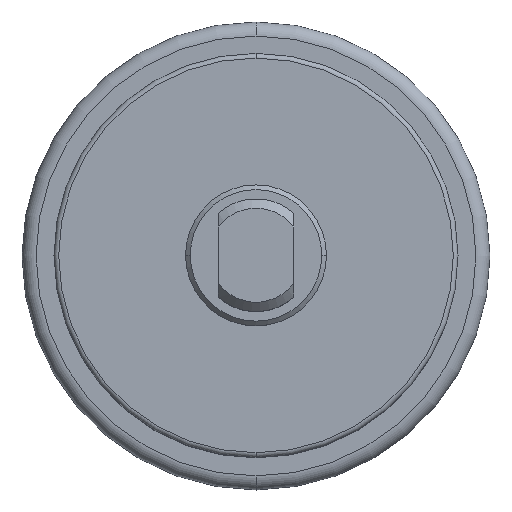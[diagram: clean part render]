
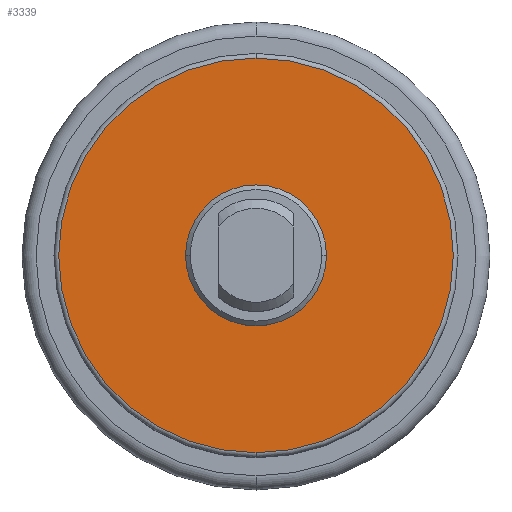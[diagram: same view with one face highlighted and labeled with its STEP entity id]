
A CAD part, top view. The second image highlights one B-rep face of the part: STEP entity #3339.
In plain terms, the highlighted planar face has unit normal (0, 0, 1).
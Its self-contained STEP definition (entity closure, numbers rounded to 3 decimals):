
#30 = EDGE_CURVE ( 'NONE', #1395, #2904, #2235, .T. ) ;
#104 = VERTEX_POINT ( 'NONE', #1288 ) ;
#114 = CARTESIAN_POINT ( 'NONE',  ( 0., 0., 25.9 ) ) ;
#177 = CARTESIAN_POINT ( 'NONE',  ( 7.5, 0., 25.9 ) ) ;
#237 = FACE_BOUND ( 'NONE', #1369, .T. ) ;
#254 = AXIS2_PLACEMENT_3D ( 'NONE', #3515, #3568, #1716 ) ;
#357 = CARTESIAN_POINT ( 'NONE',  ( 0., 0., 25.9 ) ) ;
#514 = CIRCLE ( 'NONE', #2628, 21. ) ;
#633 = AXIS2_PLACEMENT_3D ( 'NONE', #114, #3607, #3086 ) ;
#693 = CIRCLE ( 'NONE', #633, 7.5 ) ;
#849 = CARTESIAN_POINT ( 'NONE',  ( -7.5, 0., 25.9 ) ) ;
#921 = EDGE_CURVE ( 'NONE', #2904, #1395, #693, .T. ) ;
#1288 = CARTESIAN_POINT ( 'NONE',  ( 0., 21., 25.9 ) ) ;
#1308 = CARTESIAN_POINT ( 'NONE',  ( 0., 0., 25.9 ) ) ;
#1369 = EDGE_LOOP ( 'NONE', ( #2137, #2596 ) ) ;
#1395 = VERTEX_POINT ( 'NONE', #177 ) ;
#1437 = PLANE ( 'NONE',  #254 ) ;
#1708 = VERTEX_POINT ( 'NONE', #2705 ) ;
#1716 = DIRECTION ( 'NONE',  ( 0., -1., 0. ) ) ;
#1854 = AXIS2_PLACEMENT_3D ( 'NONE', #2573, #3697, #2242 ) ;
#1863 = EDGE_CURVE ( 'NONE', #1708, #104, #514, .T. ) ;
#1878 = DIRECTION ( 'NONE',  ( 0., 1., 0. ) ) ;
#2137 = ORIENTED_EDGE ( 'NONE', *, *, #921, .F. ) ;
#2184 = DIRECTION ( 'NONE',  ( 0., 0., -1. ) ) ;
#2235 = CIRCLE ( 'NONE', #1854, 7.5 ) ;
#2242 = DIRECTION ( 'NONE',  ( 1., 0., 0. ) ) ;
#2284 = ORIENTED_EDGE ( 'NONE', *, *, #1863, .F. ) ;
#2451 = EDGE_LOOP ( 'NONE', ( #2810, #2284 ) ) ;
#2504 = FACE_OUTER_BOUND ( 'NONE', #2451, .T. ) ;
#2573 = CARTESIAN_POINT ( 'NONE',  ( 0., 0., 25.9 ) ) ;
#2596 = ORIENTED_EDGE ( 'NONE', *, *, #30, .F. ) ;
#2601 = AXIS2_PLACEMENT_3D ( 'NONE', #1308, #2184, #1878 ) ;
#2610 = EDGE_CURVE ( 'NONE', #104, #1708, #3390, .T. ) ;
#2628 = AXIS2_PLACEMENT_3D ( 'NONE', #357, #3008, #3591 ) ;
#2705 = CARTESIAN_POINT ( 'NONE',  ( 0., -21., 25.9 ) ) ;
#2810 = ORIENTED_EDGE ( 'NONE', *, *, #2610, .F. ) ;
#2904 = VERTEX_POINT ( 'NONE', #849 ) ;
#3008 = DIRECTION ( 'NONE',  ( 0., 0., -1. ) ) ;
#3086 = DIRECTION ( 'NONE',  ( 1., 0., 0. ) ) ;
#3339 = ADVANCED_FACE ( 'NONE', ( #237, #2504 ), #1437, .T. ) ;
#3390 = CIRCLE ( 'NONE', #2601, 21. ) ;
#3515 = CARTESIAN_POINT ( 'NONE',  ( 0., 0., 25.9 ) ) ;
#3568 = DIRECTION ( 'NONE',  ( 0., 0., 1. ) ) ;
#3591 = DIRECTION ( 'NONE',  ( 0., 1., 0. ) ) ;
#3607 = DIRECTION ( 'NONE',  ( 0., 0., 1. ) ) ;
#3697 = DIRECTION ( 'NONE',  ( 0., 0., 1. ) ) ;
